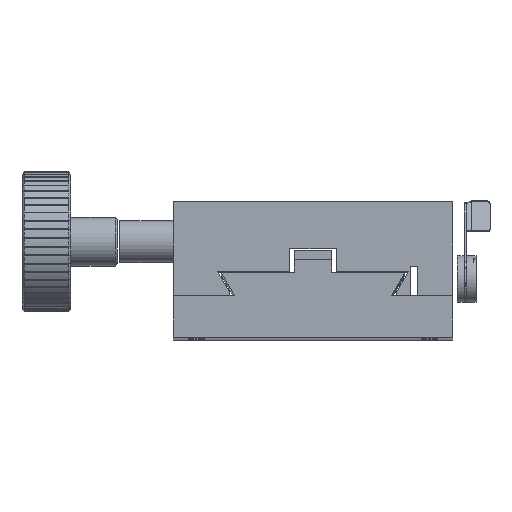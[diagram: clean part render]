
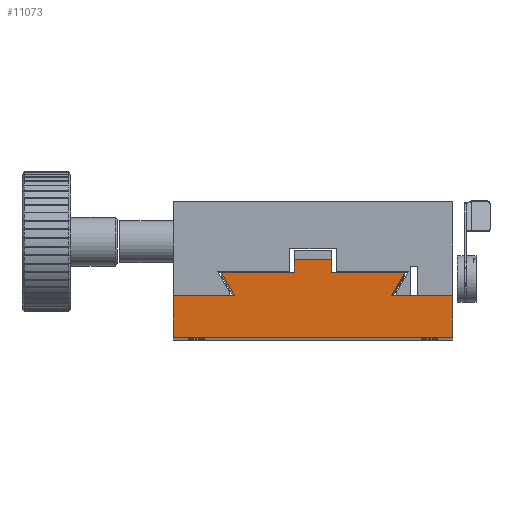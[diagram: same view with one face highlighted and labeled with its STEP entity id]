
A CAD part, top view. The second image highlights one B-rep face of the part: STEP entity #11073.
In plain terms, the highlighted planar face has unit normal (0, 0, -1).
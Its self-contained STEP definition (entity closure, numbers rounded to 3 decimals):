
#28 = AXIS2_PLACEMENT_3D ( 'NONE', #11250, #7661, #9487 ) ;
#67 = LINE ( 'NONE', #6844, #4561 ) ;
#114 = CARTESIAN_POINT ( 'NONE',  ( -15.028, 2.01, 525. ) ) ;
#283 = VERTEX_POINT ( 'NONE', #5460 ) ;
#356 = DIRECTION ( 'NONE',  ( 0.5, -0.866, 0. ) ) ;
#377 = CARTESIAN_POINT ( 'NONE',  ( -31.878, 2.01, 525. ) ) ;
#526 = CARTESIAN_POINT ( 'NONE',  ( -19.028, 7.01, 525. ) ) ;
#556 = DIRECTION ( 'NONE',  ( -1., 0., 0. ) ) ;
#735 = CARTESIAN_POINT ( 'NONE',  ( -34.764, 7.01, 525. ) ) ;
#911 = EDGE_CURVE ( 'NONE', #7841, #4985, #3469, .T. ) ;
#969 = ORIENTED_EDGE ( 'NONE', *, *, #8870, .F. ) ;
#1153 = DIRECTION ( 'NONE',  ( 0., -1., 0. ) ) ;
#1189 = ORIENTED_EDGE ( 'NONE', *, *, #7667, .F. ) ;
#1452 = DIRECTION ( 'NONE',  ( 0., -1., 0. ) ) ;
#1466 = VECTOR ( 'NONE', #5697, 1000. ) ;
#1467 = ORIENTED_EDGE ( 'NONE', *, *, #11141, .F. ) ;
#1490 = CARTESIAN_POINT ( 'NONE',  ( -45.028, 2.01, 525. ) ) ;
#1685 = CARTESIAN_POINT ( 'NONE',  ( -45.028, -6.99, 525. ) ) ;
#1836 = LINE ( 'NONE', #3794, #6588 ) ;
#1969 = VECTOR ( 'NONE', #3089, 1000. ) ;
#2059 = EDGE_CURVE ( 'NONE', #3919, #2884, #7399, .T. ) ;
#2327 = EDGE_CURVE ( 'NONE', #6781, #8433, #6434, .T. ) ;
#2391 = PLANE ( 'NONE',  #28 ) ;
#2454 = LINE ( 'NONE', #6867, #4277 ) ;
#2500 = VECTOR ( 'NONE', #1452, 1000. ) ;
#2699 = DIRECTION ( 'NONE',  ( -1., 0., 0. ) ) ;
#2731 = EDGE_CURVE ( 'NONE', #2884, #283, #6565, .T. ) ;
#2808 = CARTESIAN_POINT ( 'NONE',  ( 1.822, 2.01, 525. ) ) ;
#2884 = VERTEX_POINT ( 'NONE', #8282 ) ;
#3089 = DIRECTION ( 'NONE',  ( 0., 1., 0. ) ) ;
#3138 = ORIENTED_EDGE ( 'NONE', *, *, #3727, .F. ) ;
#3161 = CARTESIAN_POINT ( 'NONE',  ( -15.028, 7.01, 525. ) ) ;
#3228 = VERTEX_POINT ( 'NONE', #735 ) ;
#3326 = VECTOR ( 'NONE', #356, 1000. ) ;
#3469 = LINE ( 'NONE', #6433, #4879 ) ;
#3727 = EDGE_CURVE ( 'NONE', #3228, #6105, #11109, .T. ) ;
#3731 = CARTESIAN_POINT ( 'NONE',  ( -34.764, 7.01, 525. ) ) ;
#3794 = CARTESIAN_POINT ( 'NONE',  ( -45.028, -6.99, 525. ) ) ;
#3919 = VERTEX_POINT ( 'NONE', #6724 ) ;
#4063 = CARTESIAN_POINT ( 'NONE',  ( 14.972, -6.99, 525. ) ) ;
#4067 = DIRECTION ( 'NONE',  ( 0.5, 0.866, 0. ) ) ;
#4170 = CARTESIAN_POINT ( 'NONE',  ( 14.972, 2.01, 525. ) ) ;
#4210 = CARTESIAN_POINT ( 'NONE',  ( -15.028, 7.01, 525. ) ) ;
#4211 = LINE ( 'NONE', #4925, #4910 ) ;
#4277 = VECTOR ( 'NONE', #5200, 1000. ) ;
#4328 = DIRECTION ( 'NONE',  ( -1., 0., 0. ) ) ;
#4561 = VECTOR ( 'NONE', #556, 1000. ) ;
#4879 = VECTOR ( 'NONE', #1153, 1000. ) ;
#4910 = VECTOR ( 'NONE', #4067, 1000. ) ;
#4925 = CARTESIAN_POINT ( 'NONE',  ( 1.822, 2.01, 525. ) ) ;
#4985 = VERTEX_POINT ( 'NONE', #526 ) ;
#5044 = ORIENTED_EDGE ( 'NONE', *, *, #11042, .F. ) ;
#5200 = DIRECTION ( 'NONE',  ( -1., 0., 0. ) ) ;
#5254 = VERTEX_POINT ( 'NONE', #2808 ) ;
#5460 = CARTESIAN_POINT ( 'NONE',  ( -11.028, 9.71, 525. ) ) ;
#5697 = DIRECTION ( 'NONE',  ( -1., 0., 0. ) ) ;
#5745 = LINE ( 'NONE', #6625, #1969 ) ;
#6105 = VERTEX_POINT ( 'NONE', #377 ) ;
#6369 = VERTEX_POINT ( 'NONE', #4170 ) ;
#6433 = CARTESIAN_POINT ( 'NONE',  ( -19.028, -6.99, 525. ) ) ;
#6434 = LINE ( 'NONE', #10008, #2500 ) ;
#6496 = EDGE_LOOP ( 'NONE', ( #8971, #7836, #9470, #1189, #3138, #5044, #7415, #1467, #11023, #7536, #969, #10364 ) ) ;
#6565 = LINE ( 'NONE', #8137, #7129 ) ;
#6588 = VECTOR ( 'NONE', #10027, 1000. ) ;
#6625 = CARTESIAN_POINT ( 'NONE',  ( 14.972, -6.99, 525. ) ) ;
#6641 = FACE_OUTER_BOUND ( 'NONE', #6496, .T. ) ;
#6724 = CARTESIAN_POINT ( 'NONE',  ( 4.709, 7.01, 525. ) ) ;
#6781 = VERTEX_POINT ( 'NONE', #1490 ) ;
#6844 = CARTESIAN_POINT ( 'NONE',  ( -15.028, 9.71, 525. ) ) ;
#6867 = CARTESIAN_POINT ( 'NONE',  ( -15.028, 2.01, 525. ) ) ;
#7017 = LINE ( 'NONE', #114, #7432 ) ;
#7129 = VECTOR ( 'NONE', #10714, 1000. ) ;
#7399 = LINE ( 'NONE', #4210, #10982 ) ;
#7415 = ORIENTED_EDGE ( 'NONE', *, *, #911, .F. ) ;
#7432 = VECTOR ( 'NONE', #2699, 1000. ) ;
#7536 = ORIENTED_EDGE ( 'NONE', *, *, #2059, .F. ) ;
#7661 = DIRECTION ( 'NONE',  ( 0., 0., 1. ) ) ;
#7667 = EDGE_CURVE ( 'NONE', #6105, #6781, #7017, .T. ) ;
#7836 = ORIENTED_EDGE ( 'NONE', *, *, #8621, .F. ) ;
#7841 = VERTEX_POINT ( 'NONE', #9309 ) ;
#8137 = CARTESIAN_POINT ( 'NONE',  ( -11.028, -6.99, 525. ) ) ;
#8282 = CARTESIAN_POINT ( 'NONE',  ( -11.028, 7.01, 525. ) ) ;
#8433 = VERTEX_POINT ( 'NONE', #1685 ) ;
#8621 = EDGE_CURVE ( 'NONE', #8433, #10192, #1836, .T. ) ;
#8870 = EDGE_CURVE ( 'NONE', #5254, #3919, #4211, .T. ) ;
#8971 = ORIENTED_EDGE ( 'NONE', *, *, #9315, .F. ) ;
#9309 = CARTESIAN_POINT ( 'NONE',  ( -19.028, 9.71, 525. ) ) ;
#9315 = EDGE_CURVE ( 'NONE', #10192, #6369, #5745, .T. ) ;
#9470 = ORIENTED_EDGE ( 'NONE', *, *, #2327, .F. ) ;
#9487 = DIRECTION ( 'NONE',  ( 1., 0., 0. ) ) ;
#10008 = CARTESIAN_POINT ( 'NONE',  ( -45.028, -6.99, 525. ) ) ;
#10027 = DIRECTION ( 'NONE',  ( 1., 0., 0. ) ) ;
#10113 = LINE ( 'NONE', #3161, #1466 ) ;
#10192 = VERTEX_POINT ( 'NONE', #4063 ) ;
#10364 = ORIENTED_EDGE ( 'NONE', *, *, #10380, .F. ) ;
#10380 = EDGE_CURVE ( 'NONE', #6369, #5254, #2454, .T. ) ;
#10714 = DIRECTION ( 'NONE',  ( 0., 1., 0. ) ) ;
#10982 = VECTOR ( 'NONE', #4328, 1000. ) ;
#11023 = ORIENTED_EDGE ( 'NONE', *, *, #2731, .F. ) ;
#11042 = EDGE_CURVE ( 'NONE', #4985, #3228, #10113, .T. ) ;
#11073 = ADVANCED_FACE ( 'NONE', ( #6641 ), #2391, .F. ) ;
#11109 = LINE ( 'NONE', #3731, #3326 ) ;
#11141 = EDGE_CURVE ( 'NONE', #283, #7841, #67, .T. ) ;
#11250 = CARTESIAN_POINT ( 'NONE',  ( -15.028, -6.99, 525. ) ) ;
